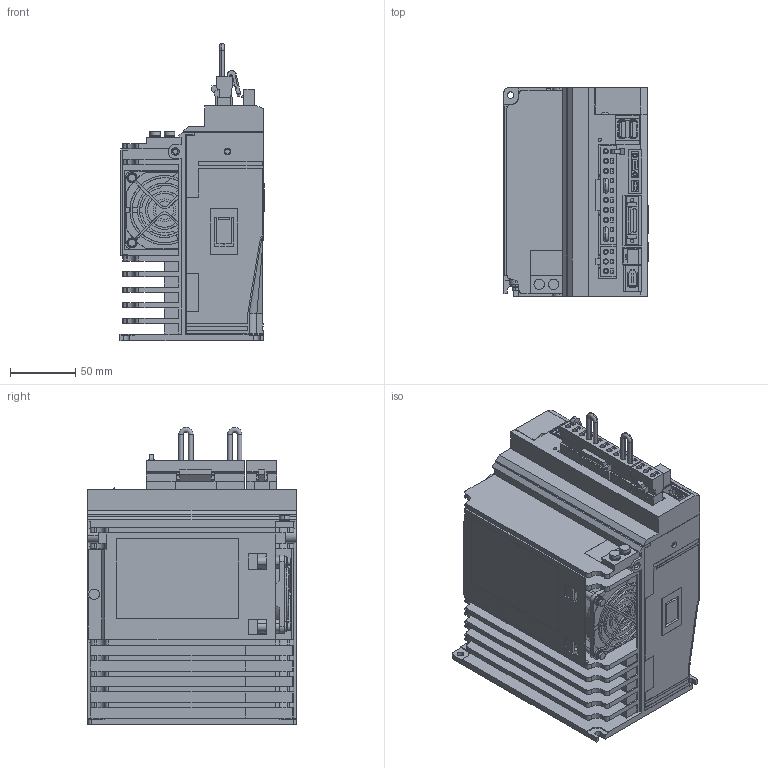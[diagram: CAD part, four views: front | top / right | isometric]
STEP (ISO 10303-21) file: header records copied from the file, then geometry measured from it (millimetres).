
FILE_DESCRIPTION (( 'STEP AP203' ), '1' );
FILE_NAME ('sgdv_5r4d1_a.STEP', '2008-06-17T08:30:57', ( 'T' ), ( 'T' ), 'SwSTEP 2.0', 'SolidWorks 2006052', '' );
FILE_SCHEMA (( 'CONFIG_CONTROL_DESIGN' ));
Products named in the file (10): sgdv_5r4d1_a_connector_2; sgdv_5r4d1_a_connector; sgdv_5r4d1_a; sgdv_5r4d1_a_base; sgdv_5r4d1_a_cover; sgdv_5r4d1_a_cover2; sgdv_5r4d1_a_pin; sgdv_5r4d1_a_cable; sgdv_5r4d1_a_connector_1
Assembly tree (11 placements, depth 3):
  sgdv_5r4d1_a
    sgdv_5r4d1_a_cover2  x2
    sgdv_5r4d1_a_base
    sgdv_5r4d1_a_connector_1
    sgdv_5r4d1_a_cover
    sgdv_5r4d1_a_connector
      sgdv_5r4d1_a_pin
      sgdv_5r4d1_a_connector_2
      sgdv_5r4d1_a_cable  x2
    sgdv_5r4d1_a_connector
Bounding box: 110.5 x 160 x 228 mm (x, y, z)
Volume: 2484666.4 mm3; surface area: 250228.3 mm2
Topology: 10 solids, 10 shells, 2047 faces, 5549 edges, 3653 vertices
Faces by surface type: plane 1727, cylinder 297, cone 16, torus 4, bspline 2, sphere 1
Entity records: 63890 total; most frequent: CARTESIAN_POINT 11237, ORIENTED_EDGE 10938, DIRECTION 10192, EDGE_CURVE 5469, VECTOR 4748, LINE 4748, VERTEX_POINT 3601, AXIS2_PLACEMENT_3D 2722
